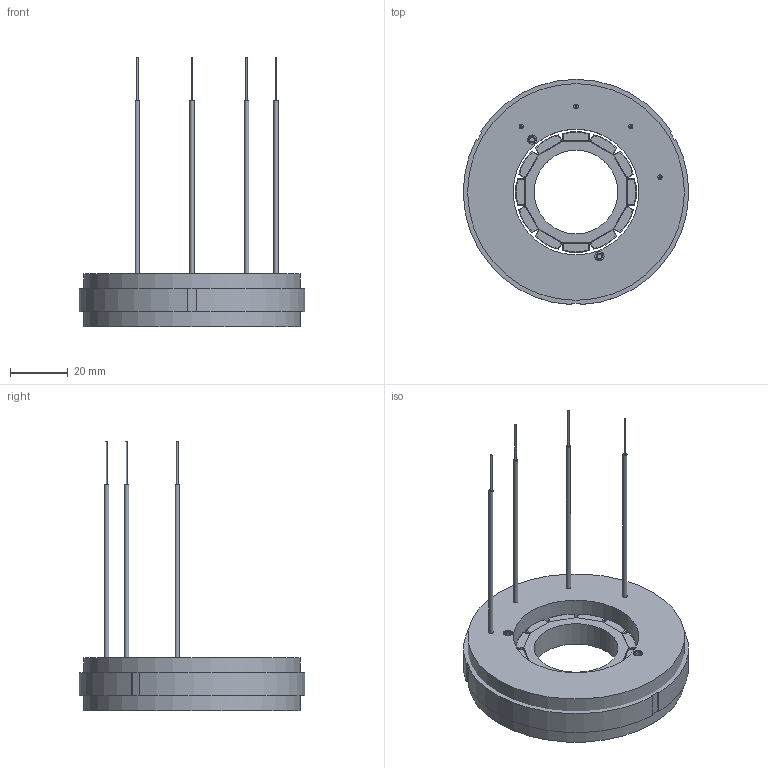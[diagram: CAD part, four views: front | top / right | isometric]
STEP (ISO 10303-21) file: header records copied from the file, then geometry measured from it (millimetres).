
FILE_DESCRIPTION(/* description */ ('Torque_QTR_78_17_N_Kit_CAD_190315.stp'),/* implementation_level */ '2;1');
FILE_NAME(/* name */ 'Torque_QTR_78_17_N_Kit_CAD_190315',/* time_stamp */ '2019-03-15T14:21:44+01:00',/* author */ ('Tecnotion'),/* organization */ ('Tecnotion'),/* preprocessor_version */ 'ST-DEVELOPER v16.7',/* originating_system */ 'DEX',/* authorisation */ $);
FILE_SCHEMA (('AUTOMOTIVE_DESIGN {1 0 10303 214 3 1 1}'));
Length unit declared in the file: millimetre
Products named in the file (2): 1083973_190314
Assembly tree (1 placements, depth 2):
  1083973_190314
    1083973_190314
Bounding box: 77.99 x 77.97 x 93.3 mm (x, y, z)
Surface area: 25188.4 mm2 (no closed solid volume)
Topology: 0 solids, 22 shells, 409 faces, 1235 edges, 724 vertices
Faces by surface type: plane 160, cylinder 116, sphere 72, bspline 35, torus 24, cone 2
Full cylindrical faces by diameter (mm): 0.6 x4, 1.5 x6, 1.65 x2, 3.2 x2, 29 x1, 43.5 x1, 75 x1
Entity records: 15105 total; most frequent: CARTESIAN_POINT 5132, DIRECTION 1936, ORIENTED_EDGE 1760, EDGE_CURVE 1140, AXIS2_PLACEMENT_3D 762, VERTEX_POINT 722, EDGE_LOOP 477, FACE_BOUND 477
